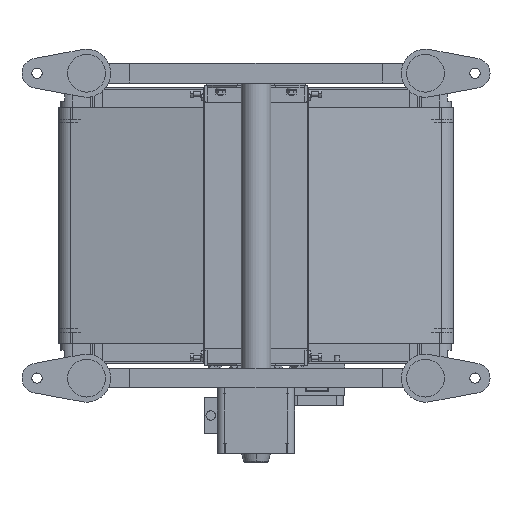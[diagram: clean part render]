
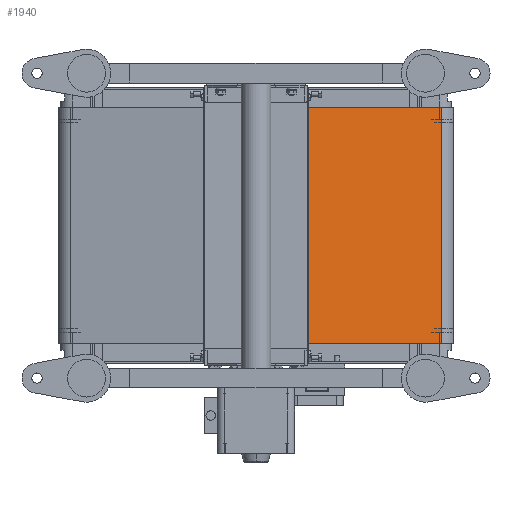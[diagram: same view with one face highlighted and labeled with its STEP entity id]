
A CAD part, front view. The second image highlights one B-rep face of the part: STEP entity #1940.
In plain terms, the highlighted planar face has unit normal (0.176, -0.984, 0).
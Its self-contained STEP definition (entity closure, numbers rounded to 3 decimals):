
#1940=ADVANCED_FACE('',(#4384),#4383,.F.);
#4383=PLANE('',#20440);
#4384=FACE_OUTER_BOUND('',#20441,.T.);
#20437=CARTESIAN_POINT('',(495.435,-32.179,-160.));
#20438=DIRECTION('',(-0.176,0.984,0.));
#20439=DIRECTION('',(-0.984,-0.176,0.));
#20440=AXIS2_PLACEMENT_3D('',#20437,#20438,#20439);
#20441=EDGE_LOOP('',(#29222,#29223,#29224,#29225));
#29222=ORIENTED_EDGE('',*,*,#36999,.T.);
#29223=ORIENTED_EDGE('',*,*,#37022,.F.);
#29224=ORIENTED_EDGE('',*,*,#36983,.F.);
#29225=ORIENTED_EDGE('',*,*,#36974,.T.);
#36974=EDGE_CURVE('',#42428,#42421,#42429,.T.);
#36983=EDGE_CURVE('',#42428,#42489,#42490,.T.);
#36999=EDGE_CURVE('',#42421,#42594,#42601,.T.);
#37022=EDGE_CURVE('',#42489,#42594,#42758,.T.);
#42421=VERTEX_POINT('',#68607);
#42428=VERTEX_POINT('',#68612);
#42429=LINE('',#68613,#68614);
#42489=VERTEX_POINT('',#68651);
#42490=LINE('',#68652,#68653);
#42594=VERTEX_POINT('',#68718);
#42601=LINE('',#68723,#68724);
#42758=LINE('',#68817,#68818);
#68607=CARTESIAN_POINT('',(282.013,-70.264,-150.));
#68612=CARTESIAN_POINT('',(282.013,-70.264,150.));
#68613=CARTESIAN_POINT('',(282.013,-70.264,150.));
#68614=VECTOR('',#68615,300.);
#68615=DIRECTION('',(0.,0.,-1.));
#68651=CARTESIAN_POINT('',(485.591,-33.936,150.));
#68652=CARTESIAN_POINT('',(282.013,-70.264,150.));
#68653=VECTOR('',#68654,206.793);
#68654=DIRECTION('',(0.984,0.176,0.));
#68718=CARTESIAN_POINT('',(485.591,-33.936,-150.));
#68723=CARTESIAN_POINT('',(282.013,-70.264,-150.));
#68724=VECTOR('',#68725,206.793);
#68725=DIRECTION('',(0.984,0.176,0.));
#68817=CARTESIAN_POINT('',(485.591,-33.936,150.));
#68818=VECTOR('',#68819,300.);
#68819=DIRECTION('',(0.,0.,-1.));
